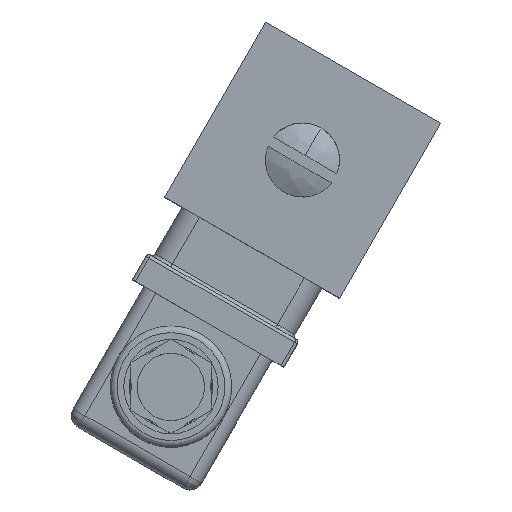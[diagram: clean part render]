
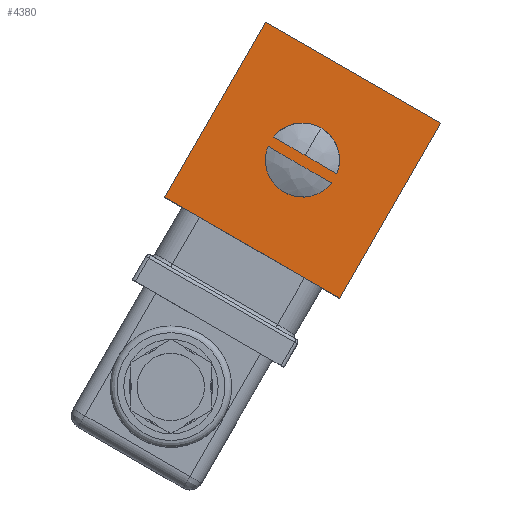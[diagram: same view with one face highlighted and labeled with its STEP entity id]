
A CAD part, top view. The second image highlights one B-rep face of the part: STEP entity #4380.
In plain terms, the highlighted planar face has unit normal (0, 0, 1).
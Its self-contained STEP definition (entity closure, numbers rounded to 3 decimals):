
#4324=CARTESIAN_POINT('',(-205.367,-15.256,143.118));
#4325=VERTEX_POINT('',#4324);
#4332=CARTESIAN_POINT('',(-190.367,10.725,143.118));
#4333=VERTEX_POINT('',#4332);
#4334=CARTESIAN_POINT('',(-205.367,-15.256,143.118));
#4335=DIRECTION('',(0.5,0.866,0.));
#4336=VECTOR('',#4335,30.);
#4337=LINE('',#4334,#4336);
#4338=EDGE_CURVE('',#4325,#4333,#4337,.T.);
#4350=CARTESIAN_POINT('',(-205.367,-15.256,143.118));
#4351=DIRECTION('',(0.,0.,1.0));
#4352=DIRECTION('',(0.866,-0.5,0.));
#4353=AXIS2_PLACEMENT_3D('',#4350,#4351,#4352);
#4354=PLANE('',#4353);
#4355=CARTESIAN_POINT('',(-179.387,-30.256,143.118));
#4356=VERTEX_POINT('',#4355);
#4357=CARTESIAN_POINT('',(-205.367,-15.256,143.118));
#4358=DIRECTION('',(0.866,-0.5,0.));
#4359=VECTOR('',#4358,30.);
#4360=LINE('',#4357,#4359);
#4361=EDGE_CURVE('',#4325,#4356,#4360,.T.);
#4362=ORIENTED_EDGE('',*,*,#4361,.T.);
#4363=CARTESIAN_POINT('',(-164.387,-4.275,143.118));
#4364=VERTEX_POINT('',#4363);
#4365=CARTESIAN_POINT('',(-179.387,-30.256,143.118));
#4366=DIRECTION('',(0.5,0.866,0.));
#4367=VECTOR('',#4366,30.);
#4368=LINE('',#4365,#4367);
#4369=EDGE_CURVE('',#4356,#4364,#4368,.T.);
#4370=ORIENTED_EDGE('',*,*,#4369,.T.);
#4371=CARTESIAN_POINT('',(-190.367,10.725,143.118));
#4372=DIRECTION('',(0.866,-0.5,0.));
#4373=VECTOR('',#4372,30.);
#4374=LINE('',#4371,#4373);
#4375=EDGE_CURVE('',#4333,#4364,#4374,.T.);
#4376=ORIENTED_EDGE('',*,*,#4375,.F.);
#4377=ORIENTED_EDGE('',*,*,#4338,.F.);
#4378=EDGE_LOOP('',(#4362,#4370,#4376,#4377));
#4379=FACE_OUTER_BOUND('',#4378,.T.);
#4380=ADVANCED_FACE('',(#4379),#4354,.T.);
